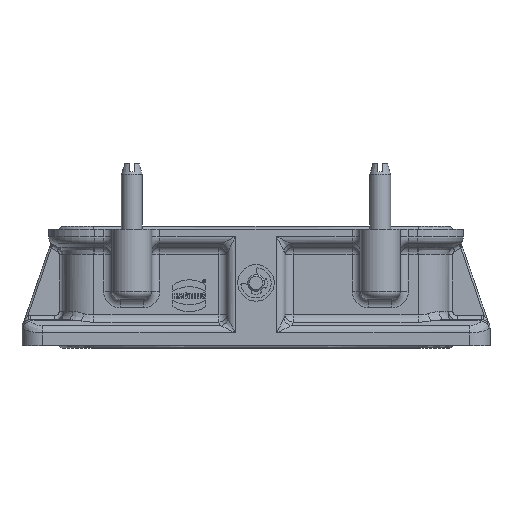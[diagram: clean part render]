
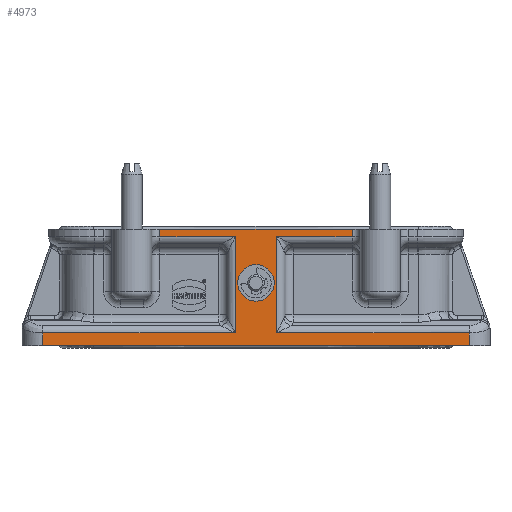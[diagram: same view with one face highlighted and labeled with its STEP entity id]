
A CAD part, front view. The second image highlights one B-rep face of the part: STEP entity #4973.
In plain terms, the highlighted planar face has unit normal (0, -1, 0).
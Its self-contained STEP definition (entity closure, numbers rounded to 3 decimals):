
#4558=FACE_BOUND('',#6561,.T.);
#4559=FACE_BOUND('',#6562,.T.);
#4973=ADVANCED_FACE('',(#4558,#4559),#5608,.F.);
#5608=PLANE('',#16280);
#6561=EDGE_LOOP('',(#9466,#9467,#9468,#9469,#9470,#9471));
#6562=EDGE_LOOP('',(#9472,#9473,#9474,#9475,#9476,#9477,#9478,#9479,#9480,
#9481,#9482,#9483));
#7496=LINE('',#21920,#8337);
#7497=LINE('',#21923,#8338);
#7498=LINE('',#21925,#8339);
#7499=LINE('',#21927,#8340);
#7500=LINE('',#21929,#8341);
#7501=LINE('',#21931,#8342);
#7502=LINE('',#21932,#8343);
#7503=LINE('',#21935,#8344);
#7504=LINE('',#21937,#8345);
#7505=LINE('',#21939,#8346);
#7506=LINE('',#21941,#8347);
#7507=LINE('',#21943,#8348);
#7508=LINE('',#21945,#8349);
#7509=LINE('',#21947,#8350);
#7510=LINE('',#21949,#8351);
#7511=LINE('',#21951,#8352);
#7512=LINE('',#21953,#8353);
#7513=LINE('',#21955,#8354);
#8337=VECTOR('',#18076,1.);
#8338=VECTOR('',#18077,1.);
#8339=VECTOR('',#18078,1.);
#8340=VECTOR('',#18079,1.);
#8341=VECTOR('',#18080,1.);
#8342=VECTOR('',#18081,1.);
#8343=VECTOR('',#18082,1.);
#8344=VECTOR('',#18083,1.);
#8345=VECTOR('',#18084,1.);
#8346=VECTOR('',#18085,1.);
#8347=VECTOR('',#18086,1.);
#8348=VECTOR('',#18087,1.);
#8349=VECTOR('',#18088,1.);
#8350=VECTOR('',#18089,1.);
#8351=VECTOR('',#18090,1.);
#8352=VECTOR('',#18091,1.);
#8353=VECTOR('',#18092,1.);
#8354=VECTOR('',#18093,1.);
#9466=ORIENTED_EDGE('',*,*,#13618,.T.);
#9467=ORIENTED_EDGE('',*,*,#13619,.T.);
#9468=ORIENTED_EDGE('',*,*,#13620,.T.);
#9469=ORIENTED_EDGE('',*,*,#13621,.T.);
#9470=ORIENTED_EDGE('',*,*,#13622,.T.);
#9471=ORIENTED_EDGE('',*,*,#13623,.T.);
#9472=ORIENTED_EDGE('',*,*,#13624,.T.);
#9473=ORIENTED_EDGE('',*,*,#13625,.T.);
#9474=ORIENTED_EDGE('',*,*,#13626,.T.);
#9475=ORIENTED_EDGE('',*,*,#13627,.T.);
#9476=ORIENTED_EDGE('',*,*,#13628,.T.);
#9477=ORIENTED_EDGE('',*,*,#13629,.T.);
#9478=ORIENTED_EDGE('',*,*,#13630,.T.);
#9479=ORIENTED_EDGE('',*,*,#13631,.T.);
#9480=ORIENTED_EDGE('',*,*,#13632,.T.);
#9481=ORIENTED_EDGE('',*,*,#13633,.T.);
#9482=ORIENTED_EDGE('',*,*,#13634,.T.);
#9483=ORIENTED_EDGE('',*,*,#13635,.T.);
#12550=VERTEX_POINT('',#21921);
#12551=VERTEX_POINT('',#21922);
#12552=VERTEX_POINT('',#21924);
#12553=VERTEX_POINT('',#21926);
#12554=VERTEX_POINT('',#21928);
#12555=VERTEX_POINT('',#21930);
#12556=VERTEX_POINT('',#21933);
#12557=VERTEX_POINT('',#21934);
#12558=VERTEX_POINT('',#21936);
#12559=VERTEX_POINT('',#21938);
#12560=VERTEX_POINT('',#21940);
#12561=VERTEX_POINT('',#21942);
#12562=VERTEX_POINT('',#21944);
#12563=VERTEX_POINT('',#21946);
#12564=VERTEX_POINT('',#21948);
#12565=VERTEX_POINT('',#21950);
#12566=VERTEX_POINT('',#21952);
#12567=VERTEX_POINT('',#21954);
#13618=EDGE_CURVE('',#12550,#12551,#7496,.T.);
#13619=EDGE_CURVE('',#12551,#12552,#7497,.T.);
#13620=EDGE_CURVE('',#12552,#12553,#7498,.T.);
#13621=EDGE_CURVE('',#12553,#12554,#7499,.T.);
#13622=EDGE_CURVE('',#12554,#12555,#7500,.T.);
#13623=EDGE_CURVE('',#12555,#12550,#7501,.T.);
#13624=EDGE_CURVE('',#12556,#12557,#7502,.T.);
#13625=EDGE_CURVE('',#12557,#12558,#7503,.T.);
#13626=EDGE_CURVE('',#12558,#12559,#7504,.T.);
#13627=EDGE_CURVE('',#12559,#12560,#7505,.T.);
#13628=EDGE_CURVE('',#12560,#12561,#7506,.T.);
#13629=EDGE_CURVE('',#12561,#12562,#7507,.T.);
#13630=EDGE_CURVE('',#12562,#12563,#7508,.T.);
#13631=EDGE_CURVE('',#12563,#12564,#7509,.T.);
#13632=EDGE_CURVE('',#12564,#12565,#7510,.T.);
#13633=EDGE_CURVE('',#12565,#12566,#7511,.T.);
#13634=EDGE_CURVE('',#12566,#12567,#7512,.T.);
#13635=EDGE_CURVE('',#12567,#12556,#7513,.T.);
#16280=AXIS2_PLACEMENT_3D('',#21956,#18094,#18095);
#18076=DIRECTION('',(0.866,0.,0.5));
#18077=DIRECTION('',(0.866,0.,-0.5));
#18078=DIRECTION('',(0.,0.,-1.));
#18079=DIRECTION('',(-0.866,0.,-0.5));
#18080=DIRECTION('',(-0.866,0.,0.5));
#18081=DIRECTION('',(0.,0.,1.));
#18082=DIRECTION('',(1.,0.,0.));
#18083=DIRECTION('',(0.,0.,1.));
#18084=DIRECTION('',(-1.,0.,0.));
#18085=DIRECTION('',(0.,0.,-1.));
#18086=DIRECTION('',(1.,0.,0.));
#18087=DIRECTION('',(0.,0.,-1.));
#18088=DIRECTION('',(-1.,0.,0.));
#18089=DIRECTION('',(0.,0.,-1.));
#18090=DIRECTION('',(1.,0.,0.));
#18091=DIRECTION('',(0.,0.,1.));
#18092=DIRECTION('',(-1.,0.,0.));
#18093=DIRECTION('',(0.,0.,1.));
#18094=DIRECTION('',(0.,1.,0.));
#18095=DIRECTION('',(0.,0.,1.));
#21920=CARTESIAN_POINT('',(-3.031,-25.,0.15));
#21921=CARTESIAN_POINT('',(-3.031,-25.,0.15));
#21922=CARTESIAN_POINT('',(0.,-25.,1.9));
#21923=CARTESIAN_POINT('',(0.,-25.,1.9));
#21924=CARTESIAN_POINT('',(3.031,-25.,0.15));
#21925=CARTESIAN_POINT('',(3.031,-25.,0.15));
#21926=CARTESIAN_POINT('',(3.031,-25.,-3.35));
#21927=CARTESIAN_POINT('',(3.031,-25.,-3.35));
#21928=CARTESIAN_POINT('',(0.,-25.,-5.1));
#21929=CARTESIAN_POINT('',(0.,-25.,-5.1));
#21930=CARTESIAN_POINT('',(-3.031,-25.,-3.35));
#21931=CARTESIAN_POINT('',(-3.031,-25.,-3.35));
#21932=CARTESIAN_POINT('',(25.2,-25.,9.555));
#21933=CARTESIAN_POINT('',(5.,-25.,9.555));
#21934=CARTESIAN_POINT('',(23.2,-25.,9.555));
#21935=CARTESIAN_POINT('',(23.2,-25.,-10.5));
#21936=CARTESIAN_POINT('',(23.2,-25.,11.4));
#21937=CARTESIAN_POINT('',(-38.95,-25.,11.4));
#21938=CARTESIAN_POINT('',(-23.2,-25.,11.4));
#21939=CARTESIAN_POINT('',(-23.2,-25.,-10.5));
#21940=CARTESIAN_POINT('',(-23.2,-25.,9.555));
#21941=CARTESIAN_POINT('',(-5.,-25.,9.555));
#21942=CARTESIAN_POINT('',(-5.,-25.,9.555));
#21943=CARTESIAN_POINT('',(-5.,-25.,-10.5));
#21944=CARTESIAN_POINT('',(-5.,-25.,-13.675));
#21945=CARTESIAN_POINT('',(-51.5,-25.,-13.675));
#21946=CARTESIAN_POINT('',(-51.5,-25.,-13.675));
#21947=CARTESIAN_POINT('',(-51.5,-25.,-10.5));
#21948=CARTESIAN_POINT('',(-51.5,-25.,-16.8));
#21949=CARTESIAN_POINT('',(-56.5,-25.,-16.8));
#21950=CARTESIAN_POINT('',(51.5,-25.,-16.8));
#21951=CARTESIAN_POINT('',(51.5,-25.,-10.5));
#21952=CARTESIAN_POINT('',(51.5,-25.,-13.675));
#21953=CARTESIAN_POINT('',(7.,-25.,-13.675));
#21954=CARTESIAN_POINT('',(5.,-25.,-13.675));
#21955=CARTESIAN_POINT('',(5.,-25.,-10.5));
#21956=CARTESIAN_POINT('',(-56.5,-25.,-10.5));
